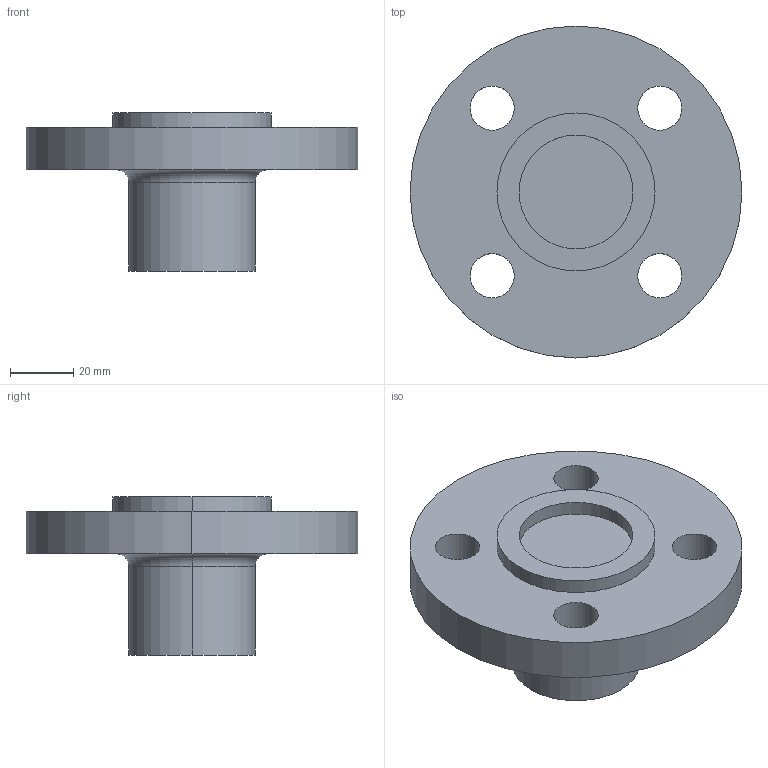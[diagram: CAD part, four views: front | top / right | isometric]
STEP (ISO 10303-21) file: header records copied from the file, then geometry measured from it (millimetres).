
FILE_DESCRIPTION (( 'STEP AP214' ), '1' );
FILE_NAME ('PN40 DN20 Type 21(i) - Type C Face.STEP', '2018-12-29T16:22:52', ( '' ), ( '' ), 'SwSTEP 2.0', 'SolidWorks 2019', '' );
FILE_SCHEMA (( 'AUTOMOTIVE_DESIGN' ));
Length unit declared in the file: millimetre
Products named in the file (1): PN40 DN20 Type 21(i) - Type C Face
Bounding box: 105 x 105 x 50 mm (x, y, z)
Volume: 153502.5 mm3; surface area: 27943.2 mm2
Topology: 1 solids, 1 shells, 23 faces, 52 edges, 34 vertices
Faces by surface type: cylinder 16, plane 5, torus 2
Entity records: 716 total; most frequent: DIRECTION 136, CARTESIAN_POINT 110, ORIENTED_EDGE 104, AXIS2_PLACEMENT_3D 60, EDGE_CURVE 52, CIRCLE 36, EDGE_LOOP 34, VERTEX_POINT 34
